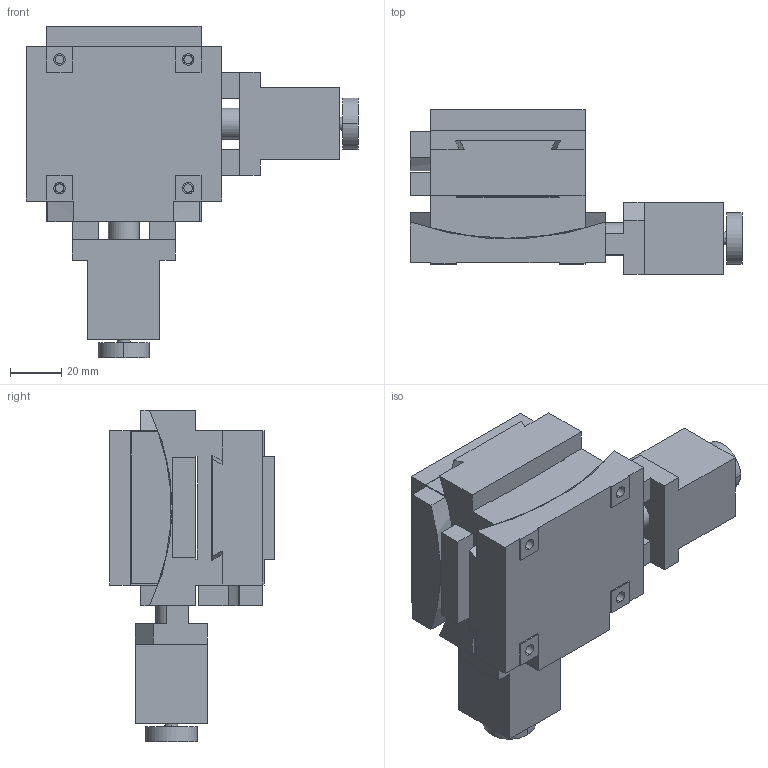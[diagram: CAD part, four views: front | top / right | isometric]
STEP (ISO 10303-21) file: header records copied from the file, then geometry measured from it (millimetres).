
FILE_DESCRIPTION (( 'STEP AP203' ), '1' );
FILE_NAME ('ATD-C612-EM.STEP', '2008-03-26T10:44:39', ( '' ), ( '' ), 'SwSTEP 2.0', 'SolidWorks 2007', '' );
FILE_SCHEMA (( 'CONFIG_CONTROL_DESIGN' ));
Length unit declared in the file: millimetre
Products named in the file (5): ATD-C612-EM; ATD-C612-EM-1_蹬怮椔; ATD-C612-EM-2_蹬怮椔; ATD-C612-EM-3_蹬怮椔; ATD-C612-EM-4_蹬怮椔
Assembly tree (4 placements, depth 2):
  ATD-C612-EM
    ATD-C612-EM-3_蹬怮椔
    ATD-C612-EM-2_蹬怮椔
    ATD-C612-EM-4_蹬怮椔
    ATD-C612-EM-1_蹬怮椔
Bounding box: 129 x 64 x 129 mm (x, y, z)
Volume: 334277.8 mm3; surface area: 85925.4 mm2
Topology: 4 solids, 8 shells, 384 faces, 956 edges, 636 vertices
Faces by surface type: plane 192, cylinder 184, cone 8
Entity records: 13335 total; most frequent: CARTESIAN_POINT 3315, DIRECTION 1990, ORIENTED_EDGE 1912, EDGE_CURVE 956, AXIS2_PLACEMENT_3D 715, VERTEX_POINT 636, LINE 560, VECTOR 560
